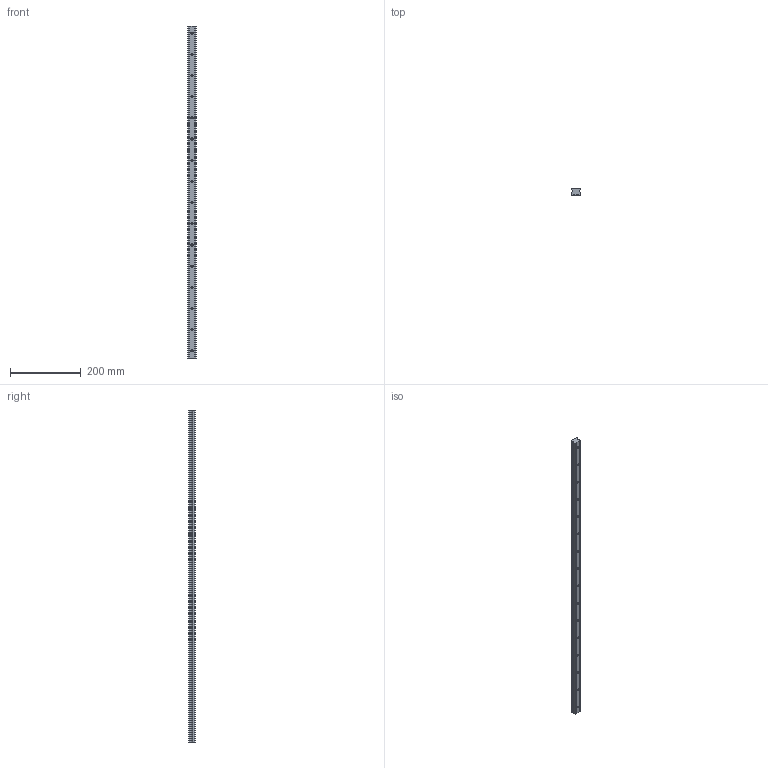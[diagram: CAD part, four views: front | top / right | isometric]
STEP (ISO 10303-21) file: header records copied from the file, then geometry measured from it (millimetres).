
FILE_DESCRIPTION (( 'STEP AP203' ), '1' );
FILE_NAME ('L1016.BRF25-0940.step', '2019-06-13T08:36:28', ( '' ), ( '' ), 'SwSTEP 2.0', 'SolidWorks 2017', '' );
FILE_SCHEMA (( 'CONFIG_CONTROL_DESIGN' ));
Length unit declared in the file: millimetre
Products named in the file (1): L1016.BRF25-0940
Bounding box: 23 x 19.2 x 940 mm (x, y, z)
Volume: 358803.2 mm3; surface area: 87095.5 mm2
Topology: 1 solids, 1 shells, 138 faces, 328 edges, 192 vertices
Faces by surface type: cylinder 68, plane 38, cone 32
Entity records: 3845 total; most frequent: DIRECTION 710, CARTESIAN_POINT 627, ORIENTED_EDGE 592, EDGE_CURVE 296, AXIS2_PLACEMENT_3D 275, VERTEX_POINT 192, EDGE_LOOP 170, LINE 160
